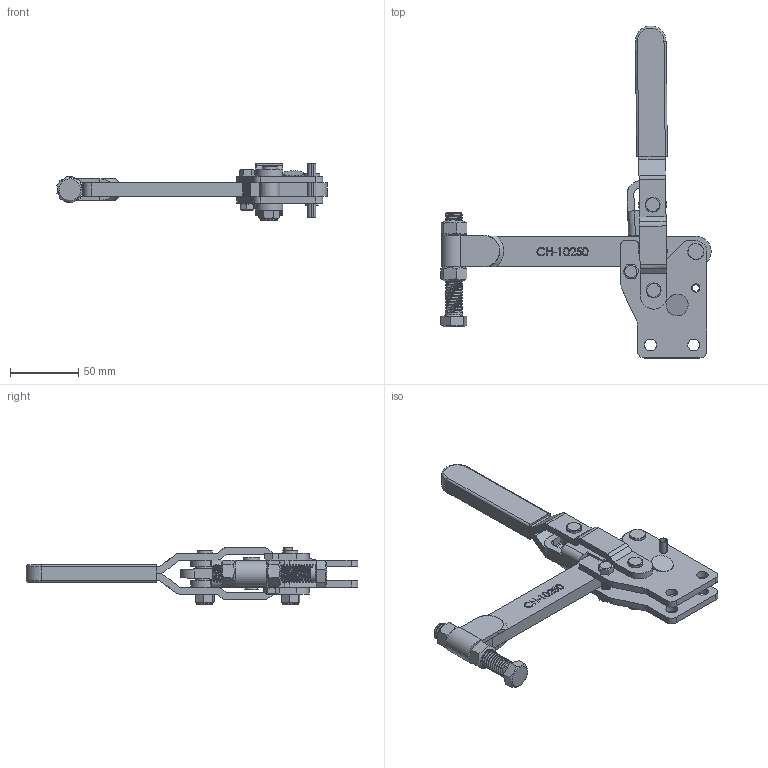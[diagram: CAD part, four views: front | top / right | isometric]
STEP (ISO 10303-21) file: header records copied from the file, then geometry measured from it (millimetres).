
FILE_DESCRIPTION(/* description */ ('STEP AP203'),/* implementation_level */ '2;1');
FILE_NAME(/* name */ 'D:\Vault_2016\Projekty\NASZ KATALOG\CLAMPTEK\STRONA\Vertical toggle clamp\CH-10250\CH-10250_ZAMKNIETY.stp',/* time_stamp */ '2019-01-18T14:26:24+01:00',/* author */ ('CADENGINEERING4'),/* organization */ ('Î¢ÈíÖÐ¹ú'),/* preprocessor_version */ 'ST-DEVELOPER v17.2',/* originating_system */ 'Autodesk Inventor 2019',/* authorisation */ '');
FILE_SCHEMA (('AUTOMOTIVE_DESIGN { 1 0 10303 214 3 1 1 }'));
Products named in the file (17): CH-10250_ZAMKNIETY; CH-10247-03 HANDLE; CH-SA-12300 SPINDLE SUPPLIED; CH-10250-02 SOLID BAR_Ä¬ÈÏ_°´¼
Ó¹¤_; CH-10247-09; M6 Nut; CH-10247-05; CH-10247-11; CH-SA-12300 NUT; CH-10247-04 CONNECTING-PLATE; CH-10247-07; CH-10248-01 STRAIGHT BASE; CH-10247-08; CH-10247-10; CH-10247-06; M6X25; 3-8-16 LOCK NUT
Assembly tree (21 placements, depth 2):
  CH-10250_ZAMKNIETY
    CH-10247-06  x2
    CH-10247-08  x2
    CH-SA-12300 NUT  x2
    CH-10247-03 HANDLE
    CH-SA-12300 SPINDLE SUPPLIED
    CH-10250-02 SOLID BAR_Ä¬ÈÏ_°´¼
Ó¹¤_
    CH-10247-11  x2
    CH-10247-09
    M6 Nut
    CH-10247-05
    CH-10247-04 CONNECTING-PLATE
    CH-10247-07
    CH-10248-01 STRAIGHT BASE
    CH-10247-10
    3-8-16 LOCK NUT  x2
    M6X25
Bounding box: 198.5 x 243.78 x 42.5 mm (x, y, z)
Volume: 172506.9 mm3; surface area: 101281 mm2
Topology: 26 solids, 26 shells, 799 faces, 2229 edges, 1517 vertices
Faces by surface type: plane 326, cylinder 210, bspline 191, cone 66, torus 6
Full cylindrical faces by diameter (mm): 3.183 x1, 3.751 x1, 4.8 x5, 6 x24, 6.6 x2, 8 x8, 8.5 x8, 8.7 x4, 9.5 x16, 10.5 x8, 11 x6, 12 x4, 12.3 x4, 12.7 x36, 12.8 x1, 15 x1
Entity records: 59890 total; most frequent: CARTESIAN_POINT 41919, ORIENTED_EDGE 4038, DIRECTION 2932, EDGE_CURVE 2019, VERTEX_POINT 1372, LINE 1000, VECTOR 1000, AXIS2_PLACEMENT_3D 966
